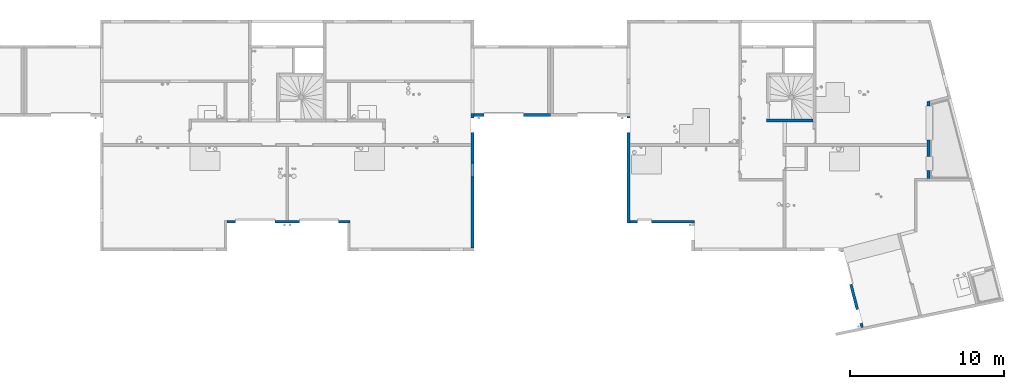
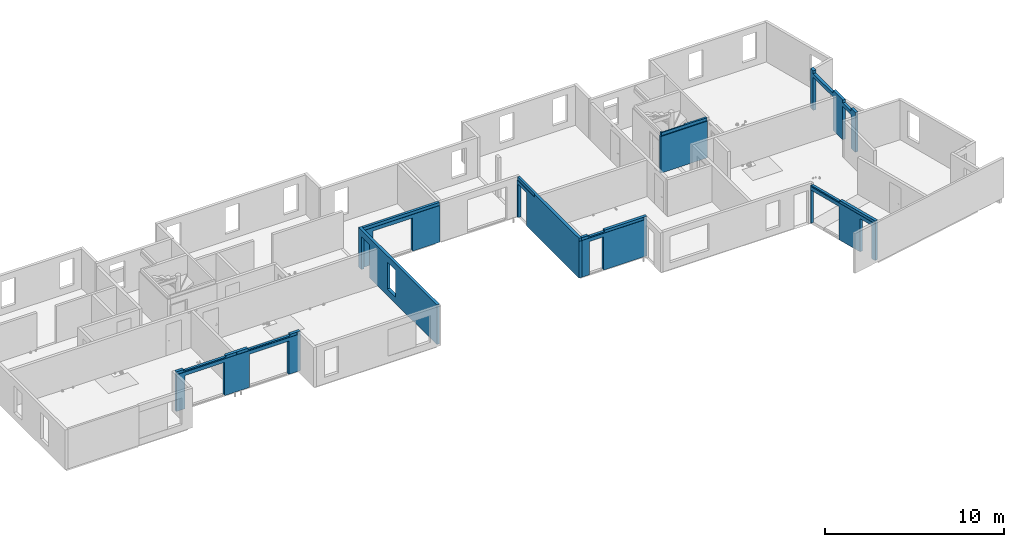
# One storey, part 22 of 30: 8 walls.
"""IFC2X3 building model written with IfcOpenShell, lengths in centimetres."""

from ifc_helpers import new_model, entity, si_unit, converted_unit, derived_unit, direction, frame, origin, place, context, subcontext, project, spatial, faceted_brep, material, layer, layer_set, type_object, element, save


model = new_model("IFC2X3")

# Units and contexts
model_context = context("Model", 3, precision=0.001, world=origin(), true_north=direction((6.12303176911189e-17, 1.0)))
body_context = subcontext(model_context, "Body", "Model", "MODEL_VIEW")
ifc_project = project(units=[si_unit("LENGTHUNIT", "METRE", prefix="CENTI"), si_unit("AREAUNIT", "SQUARE_METRE"), si_unit("VOLUMEUNIT", "CUBIC_METRE"), converted_unit("PLANEANGLEUNIT", "DEGREE", entity("IfcRatioMeasure", 0.0174532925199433), si_unit("PLANEANGLEUNIT", "RADIAN"), dimensions=[0, 0, 0, 0, 0, 0, 0]), si_unit("MASSUNIT", "GRAM", prefix="KILO"), derived_unit("MASSDENSITYUNIT", [(si_unit("MASSUNIT", "GRAM", prefix="KILO"), 1), (si_unit("LENGTHUNIT", "METRE"), -3)]), si_unit("TIMEUNIT", "SECOND"), si_unit("FREQUENCYUNIT", "HERTZ"), si_unit("THERMODYNAMICTEMPERATUREUNIT", "DEGREE_CELSIUS"), derived_unit("THERMALTRANSMITTANCEUNIT", [(si_unit("MASSUNIT", "GRAM", prefix="KILO"), 1), (si_unit("THERMODYNAMICTEMPERATUREUNIT", "KELVIN"), -1), (si_unit("TIMEUNIT", "SECOND"), -3)]), derived_unit("VOLUMETRICFLOWRATEUNIT", [(si_unit("LENGTHUNIT", "METRE"), 3), (si_unit("TIMEUNIT", "SECOND"), -1)]), si_unit("ELECTRICCURRENTUNIT", "AMPERE"), si_unit("ELECTRICVOLTAGEUNIT", "VOLT"), si_unit("POWERUNIT", "WATT"), si_unit("FORCEUNIT", "NEWTON"), si_unit("ILLUMINANCEUNIT", "LUX"), si_unit("LUMINOUSFLUXUNIT", "LUMEN"), si_unit("LUMINOUSINTENSITYUNIT", "CANDELA"), derived_unit("USERDEFINED", [(si_unit("MASSUNIT", "GRAM", prefix="KILO"), -1), (si_unit("LENGTHUNIT", "METRE"), -2), (si_unit("TIMEUNIT", "SECOND"), 3), (si_unit("LUMINOUSFLUXUNIT", "LUMEN"), 1)]), derived_unit("LINEARVELOCITYUNIT", [(si_unit("LENGTHUNIT", "METRE"), 1), (si_unit("TIMEUNIT", "SECOND"), -1)]), si_unit("PRESSUREUNIT", "PASCAL"), derived_unit("USERDEFINED", [(si_unit("LENGTHUNIT", "METRE"), -2), (si_unit("MASSUNIT", "GRAM", prefix="KILO"), 1), (si_unit("TIMEUNIT", "SECOND"), -2)])], contexts=[model_context])

# Site, building, storey
site_placement = place(None, origin())
site = spatial("IfcSite", under=ifc_project, at=site_placement, Name="Default", CompositionType="ELEMENT")
building_placement = place(site_placement, origin())
building = spatial("IfcBuilding", under=site, at=building_placement, Name="CAGE 03", CompositionType="ELEMENT")
storey_placement = place(building_placement, frame((0.0, 0.0, 610.0)))
storey = spatial("IfcBuildingStorey", under=building, at=storey_placement, Name="R+2", CompositionType="ELEMENT", Elevation=610.0)

# Walls
ifc_material = material(Name="Béton, C25/30")
ifc_layer = layer(ifc_material, 18.0)
ifc_layer_set = layer_set([ifc_layer], Name="Mur de base:Voile BA 18")
wall_type_1 = type_object("IfcWallType", Name="Mur de base:Voile BA 18", PredefinedType="STANDARD", material=ifc_layer_set)
wall_1_placement = place(storey_placement, frame((6691.36582014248, 3985.6606660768, 0.0)))
element("IfcWall", 1, at=wall_1_placement, inside=storey, type_object=wall_type_1, Name="Mur de base:Voile BA 18", ObjectType="Mur de base:Voile BA 18", context=body_context, shape_type="Brep", body=[
    faceted_brep([(0.0, -9.0, 270.0), (0.0, -9.0, 0.0), (56.0, -9.0, 0.0), (56.0, -9.0, 226.0), (311.0, -9.0, 226.0), (311.0, -9.0, 0.0), (469.0, -9.0, 0.0), (469.0, -9.0, 226.0), (724.0, -9.0, 226.0), (724.0, -9.0, 0.0), (780.0, -9.0, 0.0), (798.0, -9.0, 0.0), (798.0, -9.0, 250.0), (798.0, -9.0, 270.0), (780.0, -9.0, 270.0), (724.0, -9.0, 270.0), (724.0, -9.0, 269.589956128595), (779.0, -9.0, 269.589956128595), (779.0, -9.0, 250.0), (776.0, -9.0, 250.0), (776.0, -9.0, 251.0), (775.0, -9.0, 251.466307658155), (775.0, -9.0, 250.0), (394.499999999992, -9.0, 250.0), (394.499999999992, -9.0, 251.466307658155), (393.499999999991, -9.0, 251.0), (393.499999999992, -9.0, 250.0), (390.499999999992, -9.0, 250.0), (390.499999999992, -9.0, 269.589956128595), (469.0, -9.0, 269.589956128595), (469.0, -9.0, 270.0), (311.0, -9.0, 270.0), (311.0, -9.0, 269.589956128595), (389.5, -9.0, 269.589956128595), (389.5, -9.0, 250.0), (386.499999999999, -9.0, 250.0), (386.499999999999, -9.0, 251.0), (385.499999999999, -9.0, 251.466307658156), (385.5, -9.0, 250.0), (5.0, -9.0, 250.0), (5.0, -9.0, 251.466307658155), (4.0, -9.0, 251.0), (4.0, -9.0, 250.0), (1.0, -9.0, 250.0), (1.0, -9.0, 269.589956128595), (56.0, -9.0, 269.589956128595), (56.0, -9.0, 270.0), (56.0, 9.0, 0.0), (0.0, 9.0, 0.0), (0.0, 9.0, 250.0), (0.0, 9.0, 270.0), (48.0, 9.0, 270.0), (48.0, 9.0, 258.0), (319.0, 9.0, 258.0), (319.0, 9.0, 270.0), (461.0, 9.0, 270.0), (461.0, 9.0, 258.0), (732.0, 9.0, 258.0), (732.0, 9.0, 270.0), (798.0, 9.0, 270.0), (798.0, 9.0, 250.0), (798.0, 9.0, 0.0), (724.0, 9.0, 0.0), (724.0, 9.0, 226.0), (469.0, 9.0, 226.0), (469.0, 9.0, 0.0), (399.0, 9.0, 0.0), (381.0, 9.0, 0.0), (311.0, 9.0, 0.0), (311.0, 9.0, 226.0), (56.0, 9.0, 226.0), (732.0, -7.0, 270.0), (724.0, -7.0, 270.0), (389.5, -7.0, 250.0), (389.5, -7.0, 269.609958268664), (319.0, -7.0, 269.609958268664), (319.0, -7.0, 258.0), (48.0, -7.0, 258.0), (48.0, -7.0, 269.609958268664), (1.0, -7.0, 269.609958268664), (1.0, -7.0, 250.0), (4.0, -7.0, 250.0), (4.0, -7.0, 251.0), (5.0, -7.0, 251.466307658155), (5.0, -7.0, 250.0), (385.5, -7.0, 250.0), (385.5, -7.0, 251.466307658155), (386.499999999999, -7.0, 251.0), (386.499999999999, -7.0, 250.0), (461.0, -7.0, 258.0), (732.0, -7.0, 258.0), (394.499999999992, -7.0, 250.0), (775.0, -7.0, 250.0), (775.0, -7.0, 251.466307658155), (776.0, -7.0, 251.0), (776.0, -7.0, 250.0), (779.0, -7.0, 250.0), (779.0, -7.0, 269.609958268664), (732.0, -7.0, 269.609958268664), (461.0, -7.0, 269.609958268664), (390.499999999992, -7.0, 269.609958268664), (390.499999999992, -7.0, 250.0), (393.499999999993, -7.0, 250.0), (393.499999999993, -7.0, 251.0), (394.499999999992, -7.0, 251.466307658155), (56.0, -7.0, 269.609958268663), (56.0, -7.0, 270.0), (311.0, -7.0, 269.609958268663), (311.0, -7.0, 270.0), (469.0, -7.0, 269.609958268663), (469.0, -7.0, 270.0), (724.0, -7.0, 269.609958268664), (319.0, -7.0, 270.0), (48.0, -7.0, 270.0), (461.0, -7.0, 270.0)], [[[0, 1, 2, 3, 4, 5, 6, 7, 8, 9, 10, 11, 12, 13, 14, 15, 16, 17, 18, 19, 20, 21, 22, 23, 24, 25, 26, 27, 28, 29, 30, 31, 32, 33, 34, 35, 36, 37, 38, 39, 40, 41, 42, 43, 44, 45, 46]], [[47, 48, 49, 50, 51, 52, 53, 54, 55, 56, 57, 58, 59, 60, 61, 62, 63, 64, 65, 66, 67, 68, 69, 70]], [[1, 48, 47, 2]], [[13, 59, 58, 71, 72, 15, 14]], [[1, 0, 50, 49, 48]], [[11, 61, 60, 59, 13, 12]], [[4, 69, 68, 5]], [[69, 4, 3, 70]], [[70, 3, 2, 47]], [[8, 63, 62, 9]], [[63, 8, 7, 64]], [[64, 7, 6, 65]], [[73, 74, 75, 76, 77, 78, 79, 80, 81, 82, 83, 84, 85, 86, 87, 88]], [[56, 89, 90, 57]], [[91, 92, 93, 94, 95, 96, 97, 98, 90, 89, 99, 100, 101, 102, 103, 104]], [[45, 105, 106, 46]], [[107, 32, 31, 108]], [[52, 77, 76, 53]], [[81, 80, 43, 42]], [[105, 45, 44, 79, 78]], [[74, 73, 34, 33]], [[80, 79, 44, 43]], [[30, 29, 109, 110]], [[16, 15, 72, 111]], [[102, 101, 27, 26]], [[99, 109, 29, 28, 100]], [[97, 96, 18, 17]], [[101, 100, 28, 27]], [[75, 107, 108, 112]], [[105, 78, 113, 106]], [[88, 87, 36, 35]], [[86, 85, 38, 37]], [[87, 86, 37, 36]], [[82, 81, 42, 41]], [[84, 83, 40, 39]], [[83, 82, 41, 40]], [[98, 111, 72, 71]], [[109, 99, 114, 110]], [[95, 94, 20, 19]], [[93, 92, 22, 21]], [[94, 93, 21, 20]], [[103, 102, 26, 25]], [[91, 104, 24, 23]], [[104, 103, 25, 24]], [[76, 75, 112, 54, 53]], [[78, 77, 52, 51, 113]], [[90, 98, 71, 58, 57]], [[99, 89, 56, 55, 114]], [[98, 97, 17, 16, 111]], [[92, 91, 23, 22]], [[96, 95, 19, 18]], [[74, 33, 32, 107, 75]], [[85, 84, 39, 38]], [[73, 88, 35, 34]], [[31, 30, 110, 114, 55, 54, 112, 108]], [[50, 0, 46, 106, 113, 51]], [[5, 68, 67, 66, 65, 6]], [[61, 11, 10, 9, 62]]]),
])
wall_2_placement = place(storey_placement, frame((8283.36582014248, 3814.6606660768, 0.0), z_axis=(0.0, 0.0, 1.0), x_axis=(0.0, 1.0, 0.0)))
element("IfcWall", 2, at=wall_2_placement, inside=storey, type_object=wall_type_1, Name="Mur de base:Voile BA 18", ObjectType="Mur de base:Voile BA 18", context=body_context, shape_type="Brep", body=[
    faceted_brep([(0.0, -9.0, 270.0), (0.0, -9.0, 0.0), (751.0, -9.0, 0.0), (751.0, -9.0, 226.0), (842.0, -9.0, 226.0), (842.0, -9.0, 0.0), (854.0, -9.0, 0.0), (872.0, -9.0, 0.0), (872.0, -9.0, 230.0), (872.0, -9.0, 270.0), (856.0, -9.0, 270.0), (856.0, -9.0, 250.0), (854.0, -9.0, 250.0), (664.0, -9.0, 250.0), (664.0, -9.0, 251.466307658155), (663.0, -9.0, 251.0), (663.0, -9.0, 250.0), (660.0, -9.0, 250.0), (660.0, -9.0, 270.0), (460.0, -9.0, 45.0), (460.0, -9.0, 226.0), (551.0, -9.0, 226.0), (551.0, -9.0, 45.0), (460.0, 9.0, 226.0), (460.0, 9.0, 45.0), (551.0, 9.0, 45.0), (551.0, 9.0, 226.0), (0.0, 9.0, 270.0), (872.0, 9.0, 270.0), (872.0, 9.0, 230.0), (872.0, 9.0, 0.0), (842.0, 9.0, 0.0), (842.0, 9.0, 226.0), (751.0, 9.0, 226.0), (751.0, 9.0, 0.0), (678.0, 9.0, 0.0), (660.0, 9.0, 0.0), (0.0, 9.0, 0.0), (0.0, 9.0, 250.0), (660.0, -7.0, 270.0), (678.0, -7.0, 270.0), (856.0, -7.0, 270.0), (856.0, -7.0, 250.0), (663.0, -7.0, 251.0), (663.0, -7.0, 250.0), (664.0, -7.0, 250.0), (664.0, -7.0, 251.466307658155), (660.0, -7.0, 250.0)], [[[0, 1, 2, 3, 4, 5, 6, 7, 8, 9, 10, 11, 12, 13, 14, 15, 16, 17, 18], [19, 20, 21, 22]], [[23, 24, 25, 26], [27, 28, 29, 30, 31, 32, 33, 34, 35, 36, 37, 38]], [[1, 37, 36, 35, 34, 2]], [[28, 27, 0, 18, 39, 40, 41, 10, 9]], [[1, 0, 27, 38, 37]], [[9, 8, 7, 30, 29, 28]], [[20, 19, 24, 23]], [[21, 20, 23, 26]], [[22, 21, 26, 25]], [[19, 22, 25, 24]], [[33, 3, 2, 34]], [[3, 33, 32, 4]], [[4, 32, 31, 5]], [[41, 42, 11, 10]], [[43, 44, 16, 15]], [[45, 46, 14, 13]], [[46, 43, 15, 14]], [[17, 47, 39, 18]], [[42, 41, 40, 39, 47, 44, 43, 46, 45]], [[42, 45, 13, 12, 11]], [[44, 47, 17, 16]], [[30, 7, 6, 5, 31]]], outer=[[True, False], [False, True], [True], [True], [True], [True], [True], [True], [True], [True], [True], [True], [True], [True], [True], [True], [True], [True], [True], [True], [True], [True]]),
])
wall_3_placement = place(storey_placement, frame((8292.36582014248, 4677.6606660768, 0.0)))
element("IfcWall", 3, at=wall_3_placement, inside=storey, type_object=wall_type_1, Name="Mur de base:Voile BA 18", ObjectType="Mur de base:Voile BA 18", context=body_context, shape_type="Brep", body=[
    faceted_brep([(320.0, -9.0, 0.0), (495.0, -9.0, 0.0), (495.0, -9.0, 250.0), (492.0, -9.0, 250.0), (492.0, -9.0, 251.0), (491.0, -9.0, 251.466307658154), (491.0, -9.0, 250.0), (0.0, -9.0, 250.0), (0.0, -9.0, 0.0), (65.0, -9.0, 0.0), (65.0, -9.0, 226.0), (320.0, -9.0, 226.0), (0.0, 9.0, 270.0), (477.0, 9.0, 270.0), (495.0, 9.0, 270.0), (495.0, 9.0, 0.0), (477.0, 9.0, 0.0), (328.0, 9.0, 0.0), (320.0, 9.0, 0.0), (320.0, 9.0, 226.0), (65.0, 9.0, 226.0), (65.0, 9.0, 0.0), (57.0, 9.0, 0.0), (0.0, 9.0, 0.0), (0.0, 9.0, 250.0), (65.0, -7.0, 0.0), (0.0, -7.0, 270.0), (477.0, -7.0, 270.0), (495.0, -7.0, 270.0), (0.0, -7.0, 250.0), (495.0, -7.0, 250.0), (320.0, -7.0, 0.0), (492.0, -7.0, 250.0), (491.0, -7.0, 250.0), (491.0, -7.0, 251.466307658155), (492.0, -7.0, 251.0)], [[[0, 1, 2, 3, 4, 5, 6, 7, 8, 9, 10, 11]], [[12, 13, 14, 15, 16, 17, 18, 19, 20, 21, 22, 23, 24]], [[8, 23, 22, 21, 25, 9]], [[14, 13, 12, 26, 27, 28]], [[12, 24, 23, 8, 7, 29, 26]], [[1, 15, 14, 28, 30, 2]], [[11, 19, 18, 31, 0]], [[19, 11, 10, 20]], [[20, 10, 9, 25, 21]], [[32, 30, 28, 27, 26, 29, 33, 34, 35]], [[32, 35, 4, 3]], [[35, 34, 5, 4]], [[33, 29, 7, 6]], [[34, 33, 6, 5]], [[30, 32, 3, 2]], [[15, 1, 0, 31, 18, 17, 16]]]),
])
wall_4_placement = place(storey_placement, frame((9293.36582014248, 4668.66066607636, 0.0), z_axis=(0.0, 0.0, 1.0), x_axis=(0.0, -1.0, 0.0)))
element("IfcWall", 4, at=wall_4_placement, inside=storey, type_object=wall_type_1, Name="Mur de base:Voile BA 18", ObjectType="Mur de base:Voile BA 18", context=body_context, shape_type="Brep", body=[
    faceted_brep([(103.0, -9.0, 0.0), (690.0, -9.0, 0.0), (692.0, -9.0, 0.0), (692.0, -9.0, 250.0), (690.0, -9.0, 250.0), (690.0, -9.0, 270.0), (194.0, -9.0, 270.0), (194.0, -9.0, 250.0), (191.0, -9.0, 250.0), (191.0, -9.0, 251.0), (190.0, -9.0, 251.466307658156), (190.0, -9.0, 250.0), (0.0, -9.0, 250.0), (0.0, -9.0, 0.0), (12.0, -9.0, 0.0), (12.0, -9.0, 226.0), (103.0, -9.0, 226.0), (0.0, 9.0, 0.0), (0.0, 9.0, 270.0), (674.0, 9.0, 270.0), (690.0, 9.0, 270.0), (690.0, 9.0, 250.0), (692.0, 9.0, 250.0), (692.0, 9.0, 0.0), (690.0, 9.0, 0.0), (674.0, 9.0, 0.0), (194.0, 9.0, 0.0), (176.0, 9.0, 0.0), (103.0, 9.0, 0.0), (103.0, 9.0, 226.0), (12.0, 9.0, 226.0), (12.0, 9.0, 0.0), (0.0, -7.0, 270.0), (176.0, -7.0, 270.0), (194.0, -7.0, 270.0), (0.0, -7.0, 250.0), (692.0, -5.0, 250.0), (692.0, -5.0, 251.466307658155), (692.0, -6.0, 251.0), (692.0, -6.0, 250.0), (690.0, -6.0, 250.0), (690.0, -6.0, 251.0), (690.0, -5.0, 251.466307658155), (690.0, -5.0, 250.0), (191.0, -7.0, 250.0), (191.0, -7.0, 251.0), (194.0, -7.0, 250.0), (190.0, -7.0, 250.0), (190.0, -7.0, 251.466307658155)], [[[0, 1, 2, 3, 4, 5, 6, 7, 8, 9, 10, 11, 12, 13, 14, 15, 16]], [[17, 18, 19, 20, 21, 22, 23, 24, 25, 26, 27, 28, 29, 30, 31]], [[13, 17, 31, 14]], [[20, 19, 18, 32, 33, 34, 6, 5]], [[18, 17, 13, 12, 35, 32]], [[2, 23, 22, 36, 37, 38, 39, 3]], [[16, 29, 28, 0]], [[29, 16, 15, 30]], [[30, 15, 14, 31]], [[4, 40, 41, 42, 43, 21, 20, 5]], [[40, 4, 3, 39]], [[41, 40, 39, 38]], [[43, 42, 37, 36]], [[42, 41, 38, 37]], [[44, 45, 9, 8]], [[46, 7, 6, 34]], [[45, 44, 46, 34, 33, 32, 35, 47, 48]], [[47, 35, 12, 11]], [[48, 47, 11, 10]], [[45, 48, 10, 9]], [[46, 44, 8, 7]], [[21, 43, 36, 22]], [[23, 2, 1, 0, 28, 27, 26, 25, 24]]]),
])
wall_5_placement = place(storey_placement, frame((9302.36582014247, 3985.66066607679, 0.0)))
element("IfcWall", 5, at=wall_5_placement, inside=storey, type_object=wall_type_1, Name="Mur de base:Voile BA 18", ObjectType="Mur de base:Voile BA 18", context=body_context, shape_type="Brep", body=[
    faceted_brep([(49.5000000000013, -9.0, 270.0), (49.0, -9.0, 270.0), (0.0, -9.0, 270.0), (0.0358741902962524, -9.0, 269.589956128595), (49.5000000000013, -9.0, 269.589956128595), (419.0, 9.0, 0.0), (147.500000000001, 9.0, 0.0), (140.0, 9.0, 0.0), (140.0, 9.0, 226.0), (49.0, 9.0, 226.0), (49.0, 9.0, 0.0), (41.5000000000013, 9.0, 0.0), (0.0, 9.0, 0.0), (0.0, 9.0, 250.0), (0.0, 9.0, 270.0), (41.5000000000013, 9.0, 270.0), (41.5000000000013, 9.0, 258.0), (147.500000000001, 9.0, 258.0), (147.500000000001, 9.0, 270.0), (419.0, 9.0, 270.0), (419.0, 9.0, 250.0), (0.0, -9.0, 0.0), (0.0, -7.0, 0.0), (49.0, -9.0, 0.0), (419.0, -9.0, 270.0), (147.500000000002, -7.0, 270.0), (139.500000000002, -7.0, 270.0), (139.500000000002, -9.0, 270.0), (140.0, -9.0, 270.0), (401.0, -9.0, 270.0), (0.0, -9.0, 250.0), (0.0, -7.0, 250.0), (0.0, -7.0, 270.0), (419.0, -9.0, 0.0), (419.0, -9.0, 250.0), (140.0, -9.0, 226.0), (140.0, -9.0, 0.0), (49.0, -9.0, 226.0), (0.034124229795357, -7.0, 269.609958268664), (400.0, -7.0, 250.0), (400.0, -7.0, 269.609958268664), (147.500000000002, -7.0, 269.609958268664), (147.500000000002, -7.0, 258.0), (41.5000000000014, -7.0, 258.0), (41.5000000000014, -7.0, 269.609958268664), (396.0, -7.0, 250.0), (396.0, -7.0, 251.466307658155), (397.0, -7.0, 251.0), (397.0, -7.0, 250.0), (49.5000000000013, -7.0, 269.609958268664), (49.5000000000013, -7.0, 270.0), (139.500000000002, -9.0, 269.589956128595), (139.500000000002, -7.0, 269.609958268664), (400.0, -9.0, 250.0), (400.0, -9.0, 269.589956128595), (396.0, -9.0, 250.0), (41.5000000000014, -7.0, 270.0), (397.0, -9.0, 251.0), (397.0, -9.0, 250.0), (396.0, -9.0, 251.466307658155), (401.0, -9.0, 0.0)], [[[0, 1, 2, 3, 4]], [[5, 6, 7, 8, 9, 10, 11, 12, 13, 14, 15, 16, 17, 18, 19, 20]], [[21, 22, 12, 11, 10, 23]], [[24, 19, 18, 25, 26, 27, 28, 29]], [[12, 22, 21, 30, 31, 32, 14, 13]], [[33, 5, 20, 19, 24, 34]], [[35, 8, 7, 36]], [[8, 35, 37, 9]], [[9, 37, 23, 10]], [[32, 38, 3, 2]], [[39, 40, 41, 42, 43, 44, 38, 32, 31, 45, 46, 47, 48]], [[0, 4, 49, 50]], [[51, 27, 26, 52]], [[16, 43, 42, 17]], [[40, 39, 53, 54]], [[38, 44, 49, 4, 3]], [[55, 45, 31, 30]], [[25, 41, 52, 26]], [[49, 44, 56, 50]], [[48, 47, 57, 58]], [[46, 45, 55, 59]], [[47, 46, 59, 57]], [[41, 25, 18, 17, 42]], [[44, 43, 16, 15, 56]], [[39, 48, 58, 53]], [[41, 40, 54, 51, 52]], [[2, 1, 0, 50, 56, 15, 14, 32]], [[5, 33, 60, 36, 7, 6]], [[36, 60, 33, 34, 24, 29, 28, 27, 51, 54, 53, 58, 57, 59, 55, 30, 21, 23, 37, 35]]]),
])
wall_6_placement = place(storey_placement, frame((10678.3331842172, 3798.9347832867, 0.0), z_axis=(0.0, 0.0, 1.0), x_axis=(0.252679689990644, -0.967549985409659, 0.0)))
element("IfcWall", 6, at=wall_6_placement, inside=storey, type_object=wall_type_1, Name="Mur de base:Voile BA 18", ObjectType="Mur de base:Voile BA 18", context=body_context, shape_type="Brep", body=[
    faceted_brep([(6.0409106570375, -9.0, 270.0), (0.0, -9.0, 270.0), (0.0, -9.0, 269.589956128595), (6.04091065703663, -9.0, 269.589956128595), (0.522308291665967, -7.0, 270.0), (0.522308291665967, -7.0, 269.609958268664), (6.0409106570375, -7.0, 269.609958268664), (6.04091065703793, -7.0, 270.0)], [[[0, 1, 2, 3]], [[2, 1, 4, 5]], [[0, 3, 6, 7]], [[5, 6, 3, 2]], [[6, 5, 4, 7]], [[1, 0, 7, 4]]]),
    faceted_brep([(515.782049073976, 9.0, 0.0), (486.040910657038, 9.0, 0.0), (486.040910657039, 9.0, 226.0), (395.040910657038, 9.0, 226.0), (395.040910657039, 9.0, 0.0), (234.040910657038, 9.0, 0.0), (226.040910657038, 9.0, 0.0), (226.040910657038, 9.0, 226.0), (6.04091065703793, 9.0, 226.0), (6.04091065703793, 9.0, 0.0), (4.70077462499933, 9.0, 0.0), (4.7007746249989, 9.0, 250.0), (4.7007746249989, 9.0, 258.0), (234.040910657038, 9.0, 258.0), (234.040910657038, 9.0, 270.0), (395.040910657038, 9.0, 270.0), (486.040910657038, 9.0, 270.0), (515.782049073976, 9.0, 270.0), (515.782049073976, 9.0, 250.0), (0.0, -9.0, 0.0), (0.522308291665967, -7.0, 0.0), (6.04091065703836, -7.0, 0.0), (6.04091065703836, -9.0, 0.0), (514.841757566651, -9.0, 270.0), (234.040910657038, -7.0, 270.0), (226.040910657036, -7.0, 270.0), (226.040910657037, -9.0, 270.0), (395.040910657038, -9.0, 270.0), (486.040910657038, -9.0, 270.0), (514.841757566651, -9.0, 0.0), (486.040910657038, -9.0, 226.0), (486.040910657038, -9.0, 0.0), (395.040910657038, -9.0, 226.0), (395.040910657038, -9.0, 0.0), (226.040910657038, -9.0, 226.0), (226.040910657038, -7.0, 0.0), (226.040910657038, -9.0, 0.0), (6.04091065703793, -9.0, 226.0), (0.522308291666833, -7.0, 258.0), (234.040910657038, -7.0, 258.0), (226.040910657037, -9.0, 269.589956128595), (226.040910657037, -7.0, 269.609958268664), (2.04091065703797, -7.0, 250.0), (509.939416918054, -7.0, 250.0), (509.939416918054, -7.0, 251.466307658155), (510.940780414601, -7.0, 251.0), (510.940780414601, -7.0, 250.0), (513.944870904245, -7.0, 250.0), (513.944870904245, -7.0, 269.609958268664), (234.040910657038, -7.0, 269.609958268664), (0.5223082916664, -7.0, 250.0), (1.04091065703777, -7.0, 250.0), (1.04091065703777, -7.0, 251.0), (2.04091065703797, -7.0, 251.466307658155), (1.04091065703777, -9.0, 250.0), (0.0, -9.0, 250.0), (513.840394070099, -9.0, 250.0), (513.840394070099, -9.0, 269.589956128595), (510.836303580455, -9.0, 251.0), (510.836303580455, -9.0, 250.0), (509.834940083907, -9.0, 250.0), (509.834940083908, -9.0, 251.466307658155), (1.04091065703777, -9.0, 251.0), (2.04091065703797, -9.0, 251.466307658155), (2.04091065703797, -9.0, 250.0)], [[[0, 1, 2, 3, 4, 5, 6, 7, 8, 9, 10, 11, 12, 13, 14, 15, 16, 17, 18]], [[19, 20, 10, 9, 21, 22]], [[23, 17, 16, 15, 14, 24, 25, 26, 27, 28]], [[23, 29, 0, 18, 17]], [[30, 2, 1, 31]], [[2, 30, 32, 3]], [[3, 32, 33, 4]], [[34, 7, 6, 35, 36]], [[7, 34, 37, 8]], [[8, 37, 22, 21, 9]], [[12, 38, 39, 13]], [[40, 26, 25, 41]], [[42, 43, 44, 45, 46, 47, 48, 49, 39, 38, 50, 51, 52, 53]], [[54, 51, 50, 55]], [[48, 47, 56, 57]], [[49, 41, 25, 24]], [[46, 45, 58, 59]], [[44, 43, 60, 61]], [[45, 44, 61, 58]], [[52, 51, 54, 62]], [[42, 53, 63, 64]], [[53, 52, 62, 63]], [[39, 49, 24, 14, 13]], [[49, 48, 57, 40, 41]], [[43, 42, 64, 60]], [[47, 46, 59, 56]], [[10, 20, 19, 55, 50, 38, 12, 11]], [[4, 33, 36, 35, 6, 5]], [[0, 29, 31, 1]], [[29, 23, 28, 27, 26, 40, 57, 56, 59, 58, 61, 60, 64, 63, 62, 54, 55, 19, 22, 37, 34, 36, 33, 32, 30, 31]]]),
])
wall_7_placement = place(storey_placement, frame((11239.3658201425, 4266.66066607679, 0.0), z_axis=(0.0, 0.0, 1.0), x_axis=(0.0, 1.0, 0.0)))
element("IfcWall", 7, at=wall_7_placement, inside=storey, type_object=wall_type_1, Name="Mur de base:Voile BA 18", ObjectType="Mur de base:Voile BA 18", context=body_context, shape_type="Brep", body=[
    faceted_brep([(0.0, -9.0, 0.0), (50.0, -9.0, 0.0), (50.0, -9.0, 226.0), (141.0, -9.0, 226.0), (141.0, -9.0, 0.0), (250.0, -9.0, 0.0), (250.0, -9.0, 226.0), (470.0, -9.0, 226.0), (470.0, -9.0, 0.0), (483.640736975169, -9.0, 0.0), (502.244426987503, -9.0, 0.0), (502.244426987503, -9.0, 250.0), (502.244426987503, -9.0, 270.0), (483.640736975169, -9.0, 270.0), (470.0, -9.0, 270.0), (470.0, -9.0, 269.609958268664), (470.0, -9.0, 265.0), (470.0, -9.0, 250.0), (250.0, -9.0, 250.0), (250.0, -9.0, 265.0), (250.0, -9.0, 269.609958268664), (250.0, -9.0, 270.0), (141.0, -9.0, 270.0), (141.0, -9.0, 269.609958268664), (141.0, -9.0, 265.0), (141.0, -9.0, 250.0), (50.0, -9.0, 250.0), (50.0, -9.0, 265.0), (50.0, -9.0, 269.609958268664), (50.0, -9.0, 270.0), (0.0, -9.0, 270.0), (0.0, -9.0, 269.609958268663), (0.0, -9.0, 250.0), (50.0, 9.0, 0.0), (0.0, 9.0, 0.0), (0.0, 9.0, 250.0), (0.0, 9.0, 270.0), (50.0, 9.0, 270.0), (50.0, 9.0, 250.0), (141.0, 9.0, 250.0), (141.0, 9.0, 270.0), (250.0, 9.0, 270.0), (250.0, 9.0, 250.0), (470.0, 9.0, 250.0), (470.0, 9.0, 270.0), (497.543652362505, 9.0, 270.0), (497.543652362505, 9.0, 250.0), (497.543652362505, 9.0, 0.0), (470.0, 9.0, 0.0), (470.0, 9.0, 226.0), (250.0, 9.0, 226.0), (250.0, 9.0, 0.0), (226.0, 9.0, 0.0), (208.0, 9.0, 0.0), (141.0, 9.0, 0.0), (141.0, 9.0, 226.0), (50.0, 9.0, 226.0)], [[[0, 1, 2, 3, 4, 5, 6, 7, 8, 9, 10, 11, 12, 13, 14, 15, 16, 17, 18, 19, 20, 21, 22, 23, 24, 25, 26, 27, 28, 29, 30, 31, 32]], [[33, 34, 35, 36, 37, 38, 39, 40, 41, 42, 43, 44, 45, 46, 47, 48, 49, 50, 51, 52, 53, 54, 55, 56]], [[1, 0, 34, 33]], [[12, 45, 44, 14, 13]], [[10, 47, 46, 45, 12, 11]], [[56, 2, 1, 33]], [[2, 56, 55, 3]], [[3, 55, 54, 4]], [[50, 6, 5, 51]], [[6, 50, 49, 7]], [[7, 49, 48, 8]], [[30, 36, 35, 34, 0, 32, 31]], [[41, 21, 20, 19, 18, 42]], [[14, 44, 43, 17, 16, 15]], [[37, 29, 28, 27, 26, 38]], [[22, 40, 39, 25, 24, 23]], [[25, 39, 38, 26]], [[42, 18, 17, 43]], [[22, 21, 41, 40]], [[36, 30, 29, 37]], [[4, 54, 53, 52, 51, 5]], [[47, 10, 9, 8, 48]]]),
])
wall_type_2 = type_object("IfcWallType", Name="Mur de base:premur 18", PredefinedType="NOTDEFINED")
wall_8_placement = place(storey_placement, frame((10490.3658201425, 4641.66066607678, 0.0), z_axis=(0.0, 0.0, 1.0), x_axis=(-1.0, 0.0, 0.0)))
element("IfcWall", 8, at=wall_8_placement, inside=storey, type_object=wall_type_2, Name="Mur de base:premur 18", ObjectType="Mur de base:premur 18", context=body_context, shape_type="Brep", body=[
    faceted_brep([(0.0, -9.0, 0.0), (141.0, -9.0, 0.0), (287.500000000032, -9.0, 0.0), (294.499999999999, -9.0, 0.0), (300.0, -9.0, 0.0), (300.0, -9.0, 210.0), (300.0, -9.0, 250.0), (294.499999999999, -9.0, 250.0), (294.499999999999, -9.0, 270.0), (287.500000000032, -9.0, 270.0), (287.500000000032, -9.0, 250.0), (141.0, -9.0, 250.0), (141.0, -9.0, 270.0), (0.0, -9.0, 270.0), (300.0, 9.0, 0.0), (0.0, 9.0, 0.0), (0.0, 9.0, 250.0), (300.0, 9.0, 250.0), (0.0, 3.4999999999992, 0.0), (294.499999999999, 3.50000000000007, 270.0), (0.0, 3.4999999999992, 270.0), (141.0, -3.49999999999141, 270.0), (287.500000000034, -3.50000000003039, 270.0), (0.0, 3.4999999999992, 250.0), (294.499999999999, 3.50000000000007, 250.0), (287.500000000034, -3.50000000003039, 250.0), (141.0, -3.49999999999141, 250.0)], [[[0, 1, 2, 3, 4, 5, 6, 7, 8, 9, 10, 11, 12, 13]], [[14, 15, 16, 17]], [[4, 3, 2, 1, 0, 18, 15, 14]], [[8, 19, 20, 13, 12, 21, 22, 9]], [[0, 13, 20, 23, 16, 15, 18]], [[4, 14, 17, 6, 5]], [[24, 7, 6, 17, 16, 23]], [[24, 19, 8, 7]], [[19, 24, 23, 20]], [[25, 26, 11, 10]], [[26, 21, 12, 11]], [[22, 25, 10, 9]], [[26, 25, 22, 21]]]),
])

save(model, "model.ifc")
